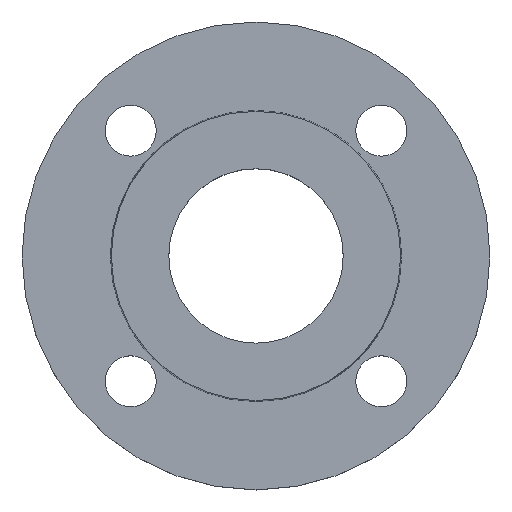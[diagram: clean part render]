
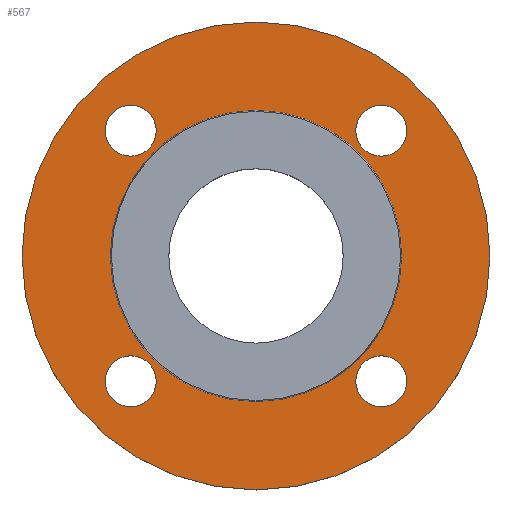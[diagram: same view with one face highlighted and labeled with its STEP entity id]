
A CAD part, top view. The second image highlights one B-rep face of the part: STEP entity #567.
In plain terms, the highlighted planar face has unit normal (0, 0, 1).
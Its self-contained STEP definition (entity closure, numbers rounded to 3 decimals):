
#3 = DIRECTION ( 'NONE',  ( -1., 0., 0. ) ) ;
#19 = EDGE_CURVE ( 'NONE', #422, #371, #42, .T. ) ;
#22 = EDGE_CURVE ( 'NONE', #371, #422, #50, .T. ) ;
#24 = EDGE_CURVE ( 'NONE', #463, #442, #56, .T. ) ;
#27 = DIRECTION ( 'NONE',  ( 0., 0., -1. ) ) ;
#28 = ORIENTED_EDGE ( 'NONE', *, *, #142, .T. ) ;
#30 = CIRCLE ( 'NONE', #390, 82.5 ) ;
#31 = CARTESIAN_POINT ( 'NONE',  ( 44.194, -44.194, -2. ) ) ;
#33 = EDGE_CURVE ( 'NONE', #100, #291, #63, .T. ) ;
#35 = CARTESIAN_POINT ( 'NONE',  ( -53.194, -44.194, -2. ) ) ;
#42 = CIRCLE ( 'NONE', #49, 51.353 ) ;
#44 = DIRECTION ( 'NONE',  ( 0., 0., -1. ) ) ;
#49 = AXIS2_PLACEMENT_3D ( 'NONE', #176, #294, #349 ) ;
#50 = CIRCLE ( 'NONE', #51, 51.353 ) ;
#51 = AXIS2_PLACEMENT_3D ( 'NONE', #157, #385, #546 ) ;
#56 = CIRCLE ( 'NONE', #62, 82.5 ) ;
#62 = AXIS2_PLACEMENT_3D ( 'NONE', #263, #44, #235 ) ;
#63 = CIRCLE ( 'NONE', #64, 9. ) ;
#64 = AXIS2_PLACEMENT_3D ( 'NONE', #102, #302, #346 ) ;
#74 = ORIENTED_EDGE ( 'NONE', *, *, #19, .T. ) ;
#80 = EDGE_CURVE ( 'NONE', #424, #189, #222, .T. ) ;
#88 = DIRECTION ( 'NONE',  ( 0., 0., -1. ) ) ;
#100 = VERTEX_POINT ( 'NONE', #462 ) ;
#102 = CARTESIAN_POINT ( 'NONE',  ( -44.194, 44.194, -2. ) ) ;
#113 = CIRCLE ( 'NONE', #121, 9. ) ;
#120 = ORIENTED_EDGE ( 'NONE', *, *, #24, .F. ) ;
#121 = AXIS2_PLACEMENT_3D ( 'NONE', #330, #126, #561 ) ;
#126 = DIRECTION ( 'NONE',  ( 0., 0., -1. ) ) ;
#128 = EDGE_LOOP ( 'NONE', ( #453, #245 ) ) ;
#129 = CARTESIAN_POINT ( 'NONE',  ( 44.194, 44.194, -2. ) ) ;
#133 = VERTEX_POINT ( 'NONE', #35 ) ;
#136 = EDGE_LOOP ( 'NONE', ( #417, #120 ) ) ;
#142 = EDGE_CURVE ( 'NONE', #587, #133, #113, .T. ) ;
#157 = CARTESIAN_POINT ( 'NONE',  ( 0., 0., -2. ) ) ;
#158 = CIRCLE ( 'NONE', #171, 9. ) ;
#162 = CARTESIAN_POINT ( 'NONE',  ( -44.194, 44.194, -2. ) ) ;
#164 = DIRECTION ( 'NONE',  ( 0., 0., -1. ) ) ;
#165 = DIRECTION ( 'NONE',  ( 1., 0., 0. ) ) ;
#167 = FACE_BOUND ( 'NONE', #408, .T. ) ;
#170 = FACE_BOUND ( 'NONE', #242, .T. ) ;
#171 = AXIS2_PLACEMENT_3D ( 'NONE', #31, #88, #458 ) ;
#176 = CARTESIAN_POINT ( 'NONE',  ( 0., 0., -2. ) ) ;
#177 = DIRECTION ( 'NONE',  ( 1., 0., 0. ) ) ;
#183 = CIRCLE ( 'NONE', #190, 9. ) ;
#185 = DIRECTION ( 'NONE',  ( 1., 0., 0. ) ) ;
#189 = VERTEX_POINT ( 'NONE', #448 ) ;
#190 = AXIS2_PLACEMENT_3D ( 'NONE', #248, #27, #290 ) ;
#199 = EDGE_CURVE ( 'NONE', #378, #326, #158, .T. ) ;
#202 = FACE_OUTER_BOUND ( 'NONE', #136, .T. ) ;
#204 = PLANE ( 'NONE',  #560 ) ;
#210 = CARTESIAN_POINT ( 'NONE',  ( 51.353, 0., -2. ) ) ;
#214 = FACE_BOUND ( 'NONE', #282, .T. ) ;
#217 = DIRECTION ( 'NONE',  ( 0., 0., 1. ) ) ;
#218 = DIRECTION ( 'NONE',  ( 1., 0., 0. ) ) ;
#221 = AXIS2_PLACEMENT_3D ( 'NONE', #299, #464, #504 ) ;
#222 = CIRCLE ( 'NONE', #221, 9. ) ;
#232 = EDGE_CURVE ( 'NONE', #133, #587, #183, .T. ) ;
#233 = CARTESIAN_POINT ( 'NONE',  ( 35.194, 44.194, -2. ) ) ;
#235 = DIRECTION ( 'NONE',  ( -1., 0., 0. ) ) ;
#242 = EDGE_LOOP ( 'NONE', ( #74, #579 ) ) ;
#245 = ORIENTED_EDGE ( 'NONE', *, *, #80, .T. ) ;
#248 = CARTESIAN_POINT ( 'NONE',  ( -44.194, -44.194, -2. ) ) ;
#251 = CARTESIAN_POINT ( 'NONE',  ( -35.194, -44.194, -2. ) ) ;
#262 = FACE_BOUND ( 'NONE', #128, .T. ) ;
#263 = CARTESIAN_POINT ( 'NONE',  ( 0., 0., -2. ) ) ;
#268 = AXIS2_PLACEMENT_3D ( 'NONE', #162, #164, #165 ) ;
#276 = CARTESIAN_POINT ( 'NONE',  ( 82.5, 0., -2. ) ) ;
#282 = EDGE_LOOP ( 'NONE', ( #28, #486 ) ) ;
#290 = DIRECTION ( 'NONE',  ( 1., 0., 0. ) ) ;
#291 = VERTEX_POINT ( 'NONE', #488 ) ;
#294 = DIRECTION ( 'NONE',  ( 0., 0., -1. ) ) ;
#296 = EDGE_CURVE ( 'NONE', #189, #424, #434, .T. ) ;
#299 = CARTESIAN_POINT ( 'NONE',  ( 44.194, 44.194, -2. ) ) ;
#302 = DIRECTION ( 'NONE',  ( 0., 0., -1. ) ) ;
#309 = CARTESIAN_POINT ( 'NONE',  ( 0., 0., -2. ) ) ;
#319 = DIRECTION ( 'NONE',  ( 0., 0., -1. ) ) ;
#323 = EDGE_LOOP ( 'NONE', ( #583, #540 ) ) ;
#326 = VERTEX_POINT ( 'NONE', #485 ) ;
#328 = AXIS2_PLACEMENT_3D ( 'NONE', #522, #319, #177 ) ;
#330 = CARTESIAN_POINT ( 'NONE',  ( -44.194, -44.194, -2. ) ) ;
#346 = DIRECTION ( 'NONE',  ( 1., 0., 0. ) ) ;
#349 = DIRECTION ( 'NONE',  ( -1., 0., 0. ) ) ;
#362 = EDGE_CURVE ( 'NONE', #326, #378, #552, .T. ) ;
#368 = DIRECTION ( 'NONE',  ( 0., 0., -1. ) ) ;
#371 = VERTEX_POINT ( 'NONE', #556 ) ;
#378 = VERTEX_POINT ( 'NONE', #404 ) ;
#385 = DIRECTION ( 'NONE',  ( 0., 0., -1. ) ) ;
#390 = AXIS2_PLACEMENT_3D ( 'NONE', #309, #512, #3 ) ;
#400 = CARTESIAN_POINT ( 'NONE',  ( -51.353, 0., -2. ) ) ;
#404 = CARTESIAN_POINT ( 'NONE',  ( 35.194, -44.194, -2. ) ) ;
#408 = EDGE_LOOP ( 'NONE', ( #484, #569 ) ) ;
#417 = ORIENTED_EDGE ( 'NONE', *, *, #517, .F. ) ;
#422 = VERTEX_POINT ( 'NONE', #400 ) ;
#424 = VERTEX_POINT ( 'NONE', #233 ) ;
#429 = FACE_BOUND ( 'NONE', #323, .T. ) ;
#434 = CIRCLE ( 'NONE', #528, 9. ) ;
#437 = CARTESIAN_POINT ( 'NONE',  ( -82.5, 0., -2. ) ) ;
#442 = VERTEX_POINT ( 'NONE', #276 ) ;
#448 = CARTESIAN_POINT ( 'NONE',  ( 53.194, 44.194, -2. ) ) ;
#453 = ORIENTED_EDGE ( 'NONE', *, *, #296, .T. ) ;
#458 = DIRECTION ( 'NONE',  ( 1., 0., 0. ) ) ;
#462 = CARTESIAN_POINT ( 'NONE',  ( -35.194, 44.194, -2. ) ) ;
#463 = VERTEX_POINT ( 'NONE', #437 ) ;
#464 = DIRECTION ( 'NONE',  ( 0., 0., -1. ) ) ;
#484 = ORIENTED_EDGE ( 'NONE', *, *, #362, .T. ) ;
#485 = CARTESIAN_POINT ( 'NONE',  ( 53.194, -44.194, -2. ) ) ;
#486 = ORIENTED_EDGE ( 'NONE', *, *, #232, .T. ) ;
#488 = CARTESIAN_POINT ( 'NONE',  ( -53.194, 44.194, -2. ) ) ;
#500 = CIRCLE ( 'NONE', #268, 9. ) ;
#504 = DIRECTION ( 'NONE',  ( 1., 0., 0. ) ) ;
#512 = DIRECTION ( 'NONE',  ( 0., 0., -1. ) ) ;
#517 = EDGE_CURVE ( 'NONE', #442, #463, #30, .T. ) ;
#522 = CARTESIAN_POINT ( 'NONE',  ( 44.194, -44.194, -2. ) ) ;
#528 = AXIS2_PLACEMENT_3D ( 'NONE', #129, #368, #185 ) ;
#540 = ORIENTED_EDGE ( 'NONE', *, *, #548, .T. ) ;
#546 = DIRECTION ( 'NONE',  ( -1., 0., 0. ) ) ;
#548 = EDGE_CURVE ( 'NONE', #291, #100, #500, .T. ) ;
#552 = CIRCLE ( 'NONE', #328, 9. ) ;
#556 = CARTESIAN_POINT ( 'NONE',  ( 51.353, 0., -2. ) ) ;
#560 = AXIS2_PLACEMENT_3D ( 'NONE', #210, #217, #218 ) ;
#561 = DIRECTION ( 'NONE',  ( 1., 0., 0. ) ) ;
#567 = ADVANCED_FACE ( 'NONE', ( #167, #214, #429, #262, #170, #202 ), #204, .T. ) ;
#569 = ORIENTED_EDGE ( 'NONE', *, *, #199, .T. ) ;
#579 = ORIENTED_EDGE ( 'NONE', *, *, #22, .T. ) ;
#583 = ORIENTED_EDGE ( 'NONE', *, *, #33, .T. ) ;
#587 = VERTEX_POINT ( 'NONE', #251 ) ;
